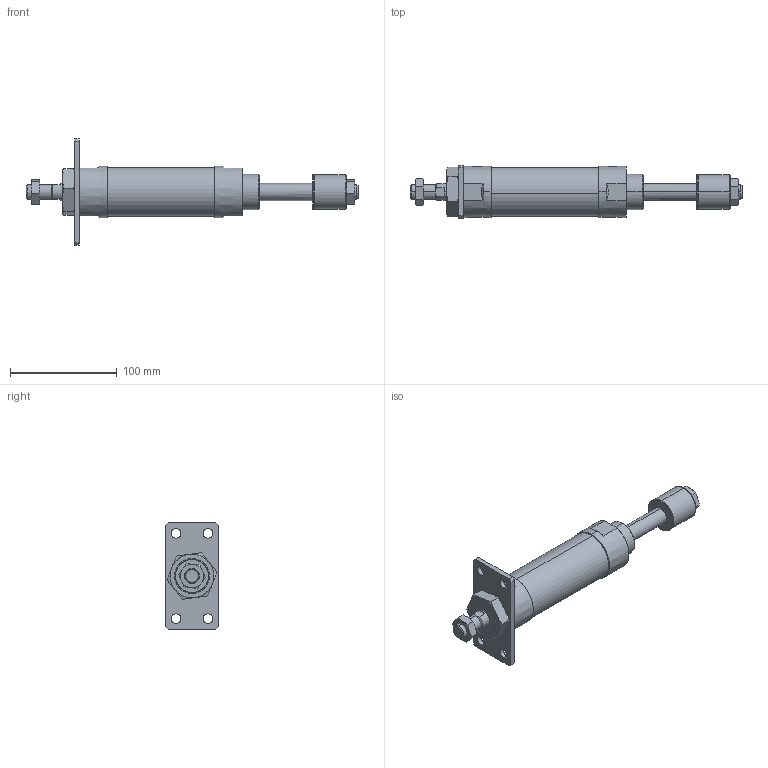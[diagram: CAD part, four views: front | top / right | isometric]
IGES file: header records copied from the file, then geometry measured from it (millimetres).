
Start section: SolidWorks IGES file using analytic representation for surfaces
Global section: file name: C:\Users\Toshiba\Desktop\JGA7-40-50-A.IGS; native system: SolidWorks 2014; preprocessor: SolidWorks 2014; author: Toshiba; date: 160420.095825; units: millimetre
Bounding box: 311.5 x 50 x 100 mm (x, y, z)
Surface area: 66284.5 mm2 (no closed solid volume)
Topology: 0 solids, 0 shells, 169 faces, 3404 edges, 3400 vertices
Faces by surface type: bspline 99, revolution 70
